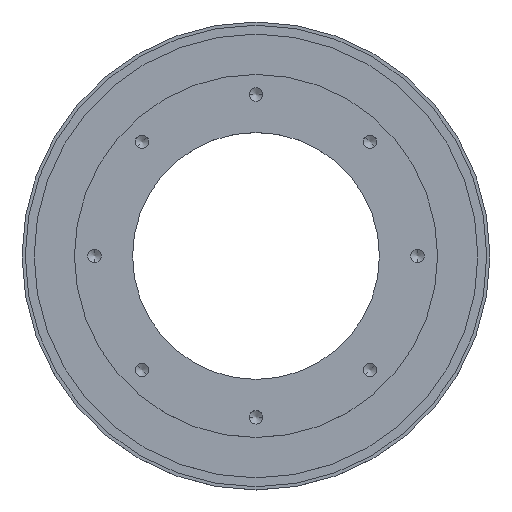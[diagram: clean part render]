
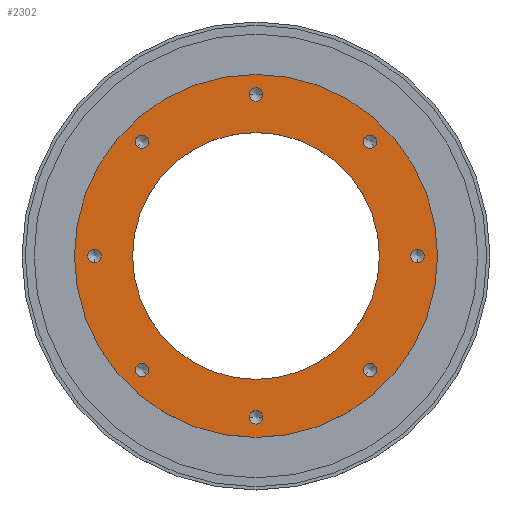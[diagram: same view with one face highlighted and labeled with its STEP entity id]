
A CAD part, top view. The second image highlights one B-rep face of the part: STEP entity #2302.
In plain terms, the highlighted planar face has unit normal (0, 0, 1).
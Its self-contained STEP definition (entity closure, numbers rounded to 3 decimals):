
#242=CARTESIAN_POINT('',(-112.5,0.,22.0));
#243=VERTEX_POINT('',#242);
#259=CARTESIAN_POINT('',(112.5,0.,22.0));
#260=VERTEX_POINT('',#259);
#267=CARTESIAN_POINT('',(0.0,0.0,22.0));
#268=DIRECTION('',(0.0,0.0,-1.0));
#269=DIRECTION('',(-1.0,0.0,0.0));
#270=AXIS2_PLACEMENT_3D('',#267,#268,#269);
#271=CIRCLE('',#270,112.5);
#272=EDGE_CURVE('',#260,#243,#271,.T.);
#284=CARTESIAN_POINT('',(-76.5,0.,22.0));
#285=VERTEX_POINT('',#284);
#301=CARTESIAN_POINT('',(76.5,0.,22.0));
#302=VERTEX_POINT('',#301);
#309=CARTESIAN_POINT('',(0.,0.,22.0));
#310=DIRECTION('',(0.0,0.0,-1.0));
#311=DIRECTION('',(-1.0,0.0,0.0));
#312=AXIS2_PLACEMENT_3D('',#309,#310,#311);
#313=CIRCLE('',#312,76.5);
#314=EDGE_CURVE('',#285,#302,#313,.T.);
#577=CARTESIAN_POINT('',(4.188,100.0,22.0));
#578=VERTEX_POINT('',#577);
#594=CARTESIAN_POINT('',(-4.188,100.0,22.0));
#595=VERTEX_POINT('',#594);
#602=CARTESIAN_POINT('',(0.0,100.0,22.0));
#603=DIRECTION('',(0.0,0.0,-1.0));
#604=DIRECTION('',(1.0,0.0,0.0));
#605=AXIS2_PLACEMENT_3D('',#602,#603,#604);
#606=CIRCLE('',#605,4.188);
#607=EDGE_CURVE('',#578,#595,#606,.T.);
#690=CARTESIAN_POINT('',(73.672,67.749,22.0));
#691=VERTEX_POINT('',#690);
#707=CARTESIAN_POINT('',(67.749,73.672,22.0));
#708=VERTEX_POINT('',#707);
#715=CARTESIAN_POINT('',(70.711,70.711,22.0));
#716=DIRECTION('',(0.,0.,-1.0));
#717=DIRECTION('',(0.707,-0.707,0.));
#718=AXIS2_PLACEMENT_3D('',#715,#716,#717);
#719=CIRCLE('',#718,4.188);
#720=EDGE_CURVE('',#691,#708,#719,.T.);
#803=CARTESIAN_POINT('',(100.0,-4.188,22.0));
#804=VERTEX_POINT('',#803);
#820=CARTESIAN_POINT('',(100.0,4.188,22.0));
#821=VERTEX_POINT('',#820);
#828=CARTESIAN_POINT('',(100.0,0.,22.0));
#829=DIRECTION('',(0.0,0.0,-1.0));
#830=DIRECTION('',(0.0,-1.0,0.0));
#831=AXIS2_PLACEMENT_3D('',#828,#829,#830);
#832=CIRCLE('',#831,4.188);
#833=EDGE_CURVE('',#804,#821,#832,.T.);
#916=CARTESIAN_POINT('',(67.749,-73.672,22.0));
#917=VERTEX_POINT('',#916);
#933=CARTESIAN_POINT('',(73.672,-67.749,22.0));
#934=VERTEX_POINT('',#933);
#941=CARTESIAN_POINT('',(70.711,-70.711,22.0));
#942=DIRECTION('',(0.,0.,-1.0));
#943=DIRECTION('',(-0.707,-0.707,0.));
#944=AXIS2_PLACEMENT_3D('',#941,#942,#943);
#945=CIRCLE('',#944,4.188);
#946=EDGE_CURVE('',#917,#934,#945,.T.);
#1029=CARTESIAN_POINT('',(-4.188,-100.0,22.0));
#1030=VERTEX_POINT('',#1029);
#1046=CARTESIAN_POINT('',(4.188,-100.0,22.0));
#1047=VERTEX_POINT('',#1046);
#1054=CARTESIAN_POINT('',(0.,-100.0,22.0));
#1055=DIRECTION('',(0.0,0.0,-1.0));
#1056=DIRECTION('',(-1.0,0.0,0.0));
#1057=AXIS2_PLACEMENT_3D('',#1054,#1055,#1056);
#1058=CIRCLE('',#1057,4.188);
#1059=EDGE_CURVE('',#1030,#1047,#1058,.T.);
#1142=CARTESIAN_POINT('',(-73.672,-67.749,22.));
#1143=VERTEX_POINT('',#1142);
#1159=CARTESIAN_POINT('',(-67.749,-73.672,22.));
#1160=VERTEX_POINT('',#1159);
#1167=CARTESIAN_POINT('',(-70.711,-70.711,22.));
#1168=DIRECTION('',(0.,0.,-1.));
#1169=DIRECTION('',(-0.707,0.707,0.));
#1170=AXIS2_PLACEMENT_3D('',#1167,#1168,#1169);
#1171=CIRCLE('',#1170,4.188);
#1172=EDGE_CURVE('',#1143,#1160,#1171,.T.);
#1255=CARTESIAN_POINT('',(-100.0,4.188,22.0));
#1256=VERTEX_POINT('',#1255);
#1272=CARTESIAN_POINT('',(-100.0,-4.188,22.0));
#1273=VERTEX_POINT('',#1272);
#1280=CARTESIAN_POINT('',(-100.0,0.,22.0));
#1281=DIRECTION('',(0.0,0.0,-1.0));
#1282=DIRECTION('',(0.0,1.0,0.0));
#1283=AXIS2_PLACEMENT_3D('',#1280,#1281,#1282);
#1284=CIRCLE('',#1283,4.188);
#1285=EDGE_CURVE('',#1256,#1273,#1284,.T.);
#1368=CARTESIAN_POINT('',(-67.749,73.672,22.0));
#1369=VERTEX_POINT('',#1368);
#1385=CARTESIAN_POINT('',(-73.672,67.749,22.0));
#1386=VERTEX_POINT('',#1385);
#1393=CARTESIAN_POINT('',(-70.711,70.711,22.0));
#1394=DIRECTION('',(0.,0.,-1.0));
#1395=DIRECTION('',(0.707,0.707,0.));
#1396=AXIS2_PLACEMENT_3D('',#1393,#1394,#1395);
#1397=CIRCLE('',#1396,4.188);
#1398=EDGE_CURVE('',#1369,#1386,#1397,.T.);
#1512=CARTESIAN_POINT('',(-70.711,70.711,22.0));
#1513=DIRECTION('',(0.,0.,-1.0));
#1514=DIRECTION('',(0.707,0.707,0.));
#1515=AXIS2_PLACEMENT_3D('',#1512,#1513,#1514);
#1516=CIRCLE('',#1515,4.188);
#1517=EDGE_CURVE('',#1386,#1369,#1516,.T.);
#1583=CARTESIAN_POINT('',(-100.0,0.,22.0));
#1584=DIRECTION('',(0.0,0.0,-1.0));
#1585=DIRECTION('',(0.0,1.0,0.0));
#1586=AXIS2_PLACEMENT_3D('',#1583,#1584,#1585);
#1587=CIRCLE('',#1586,4.188);
#1588=EDGE_CURVE('',#1273,#1256,#1587,.T.);
#1654=CARTESIAN_POINT('',(-70.711,-70.711,22.));
#1655=DIRECTION('',(0.,0.,-1.));
#1656=DIRECTION('',(-0.707,0.707,0.));
#1657=AXIS2_PLACEMENT_3D('',#1654,#1655,#1656);
#1658=CIRCLE('',#1657,4.188);
#1659=EDGE_CURVE('',#1160,#1143,#1658,.T.);
#1725=CARTESIAN_POINT('',(0.,-100.0,22.0));
#1726=DIRECTION('',(0.0,0.0,-1.0));
#1727=DIRECTION('',(-1.0,0.0,0.0));
#1728=AXIS2_PLACEMENT_3D('',#1725,#1726,#1727);
#1729=CIRCLE('',#1728,4.188);
#1730=EDGE_CURVE('',#1047,#1030,#1729,.T.);
#1796=CARTESIAN_POINT('',(70.711,-70.711,22.0));
#1797=DIRECTION('',(0.,0.,-1.0));
#1798=DIRECTION('',(-0.707,-0.707,0.));
#1799=AXIS2_PLACEMENT_3D('',#1796,#1797,#1798);
#1800=CIRCLE('',#1799,4.188);
#1801=EDGE_CURVE('',#934,#917,#1800,.T.);
#1867=CARTESIAN_POINT('',(100.0,0.,22.0));
#1868=DIRECTION('',(0.0,0.0,-1.0));
#1869=DIRECTION('',(0.0,-1.0,0.0));
#1870=AXIS2_PLACEMENT_3D('',#1867,#1868,#1869);
#1871=CIRCLE('',#1870,4.188);
#1872=EDGE_CURVE('',#821,#804,#1871,.T.);
#1938=CARTESIAN_POINT('',(70.711,70.711,22.0));
#1939=DIRECTION('',(0.,0.,-1.0));
#1940=DIRECTION('',(0.707,-0.707,0.));
#1941=AXIS2_PLACEMENT_3D('',#1938,#1939,#1940);
#1942=CIRCLE('',#1941,4.188);
#1943=EDGE_CURVE('',#708,#691,#1942,.T.);
#2009=CARTESIAN_POINT('',(0.0,100.0,22.0));
#2010=DIRECTION('',(0.0,0.0,-1.0));
#2011=DIRECTION('',(1.0,0.0,0.0));
#2012=AXIS2_PLACEMENT_3D('',#2009,#2010,#2011);
#2013=CIRCLE('',#2012,4.188);
#2014=EDGE_CURVE('',#595,#578,#2013,.T.);
#2215=CARTESIAN_POINT('',(0.,0.,22.0));
#2216=DIRECTION('',(0.0,0.0,-1.0));
#2217=DIRECTION('',(-1.0,0.0,0.0));
#2218=AXIS2_PLACEMENT_3D('',#2215,#2216,#2217);
#2219=CIRCLE('',#2218,76.5);
#2220=EDGE_CURVE('',#302,#285,#2219,.T.);
#2239=CARTESIAN_POINT('',(0.0,0.0,22.0));
#2240=DIRECTION('',(0.0,0.0,-1.0));
#2241=DIRECTION('',(-1.0,0.0,0.0));
#2242=AXIS2_PLACEMENT_3D('',#2239,#2240,#2241);
#2243=CIRCLE('',#2242,112.5);
#2244=EDGE_CURVE('',#243,#260,#2243,.T.);
#2257=CARTESIAN_POINT('',(10.227,0.,22.0));
#2258=DIRECTION('',(0.0,0.0,1.0));
#2259=DIRECTION('',(1.0,0.0,0.0));
#2260=AXIS2_PLACEMENT_3D('',#2257,#2258,#2259);
#2261=PLANE('',#2260);
#2262=ORIENTED_EDGE('',*,*,#272,.F.);
#2263=ORIENTED_EDGE('',*,*,#2244,.F.);
#2264=EDGE_LOOP('',(#2262,#2263));
#2265=FACE_OUTER_BOUND('',#2264,.T.);
#2266=ORIENTED_EDGE('',*,*,#1398,.T.);
#2267=ORIENTED_EDGE('',*,*,#1517,.T.);
#2268=EDGE_LOOP('',(#2266,#2267));
#2269=FACE_BOUND('',#2268,.T.);
#2270=ORIENTED_EDGE('',*,*,#1285,.T.);
#2271=ORIENTED_EDGE('',*,*,#1588,.T.);
#2272=EDGE_LOOP('',(#2270,#2271));
#2273=FACE_BOUND('',#2272,.T.);
#2274=ORIENTED_EDGE('',*,*,#1172,.T.);
#2275=ORIENTED_EDGE('',*,*,#1659,.T.);
#2276=EDGE_LOOP('',(#2274,#2275));
#2277=FACE_BOUND('',#2276,.T.);
#2278=ORIENTED_EDGE('',*,*,#1059,.T.);
#2279=ORIENTED_EDGE('',*,*,#1730,.T.);
#2280=EDGE_LOOP('',(#2278,#2279));
#2281=FACE_BOUND('',#2280,.T.);
#2282=ORIENTED_EDGE('',*,*,#946,.T.);
#2283=ORIENTED_EDGE('',*,*,#1801,.T.);
#2284=EDGE_LOOP('',(#2282,#2283));
#2285=FACE_BOUND('',#2284,.T.);
#2286=ORIENTED_EDGE('',*,*,#833,.T.);
#2287=ORIENTED_EDGE('',*,*,#1872,.T.);
#2288=EDGE_LOOP('',(#2286,#2287));
#2289=FACE_BOUND('',#2288,.T.);
#2290=ORIENTED_EDGE('',*,*,#720,.T.);
#2291=ORIENTED_EDGE('',*,*,#1943,.T.);
#2292=EDGE_LOOP('',(#2290,#2291));
#2293=FACE_BOUND('',#2292,.T.);
#2294=ORIENTED_EDGE('',*,*,#607,.T.);
#2295=ORIENTED_EDGE('',*,*,#2014,.T.);
#2296=EDGE_LOOP('',(#2294,#2295));
#2297=FACE_BOUND('',#2296,.T.);
#2298=ORIENTED_EDGE('',*,*,#2220,.T.);
#2299=ORIENTED_EDGE('',*,*,#314,.T.);
#2300=EDGE_LOOP('',(#2298,#2299));
#2301=FACE_BOUND('',#2300,.T.);
#2302=ADVANCED_FACE('',(#2265,#2269,#2273,#2277,#2281,#2285,#2289,#2293,#2297,#2301),#2261,.T.);
